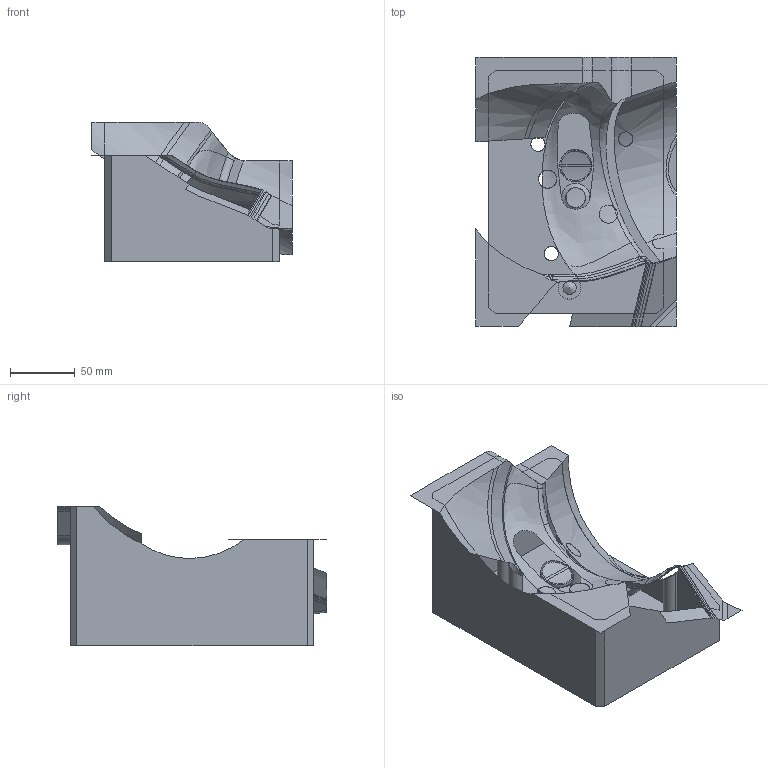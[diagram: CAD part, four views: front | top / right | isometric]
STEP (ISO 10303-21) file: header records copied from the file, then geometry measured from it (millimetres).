
FILE_DESCRIPTION(('STEP AP214'),'1');
FILE_NAME('358-17-Pos185.stp','2017-12-01T12:52:31',(' '),(' '),'Spatial InterOp 3D',' ',' ');
FILE_SCHEMA(('AUTOMOTIVE_DESIGN { 1 0 10303 214 1 1 1 1 }'));
Length unit declared in the file: metre
Products named in the file (1): 1
Bounding box: 155 x 208 x 108 mm (x, y, z)
Surface area: 109683.2 mm2 (no closed solid volume)
Topology: 0 solids, 33 shells, 136 faces, 480 edges, 369 vertices
Faces by surface type: offset 69, plane 32, cylinder 18, bspline 13, cone 3, torus 1
Full cylindrical faces by diameter (mm): 10.2 x2, 11 x3, 14 x2, 15.25 x1, 17.5 x2, 22 x1, 25 x1
Entity records: 53619 total; most frequent: CARTESIAN_POINT 47575, ORIENTED_EDGE 822, EDGE_CURVE 505, B_SPLINE_CURVE_WITH_KNOTS 438, VERTEX_POINT 405, PRESENTATION_STYLE_ASSIGNMENT 403, COLOUR_RGB 403, STYLED_ITEM 320
